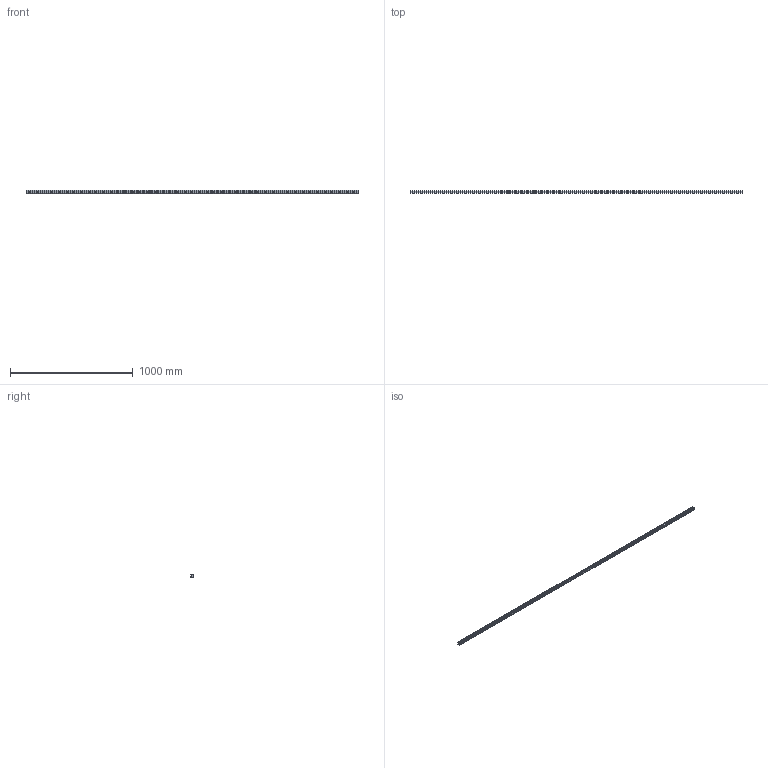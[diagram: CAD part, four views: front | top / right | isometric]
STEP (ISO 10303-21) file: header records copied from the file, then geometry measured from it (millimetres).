
FILE_DESCRIPTION (( 'STEP AP203' ), '1' );
FILE_NAME ('L1018.25R-2700.step', '2023-08-06T10:43:35', ( '' ), ( '' ), 'SwSTEP 2.0', 'SolidWorks 2019', '' );
FILE_SCHEMA (( 'CONFIG_CONTROL_DESIGN' ));
Length unit declared in the file: millimetre
Products named in the file (1): L1018.25R-2700
Bounding box: 2700 x 21.8 x 25 mm (x, y, z)
Volume: 1122897.9 mm3; surface area: 268955.1 mm2
Topology: 1 solids, 1 shells, 434 faces, 981 edges, 549 vertices
Faces by surface type: cylinder 183, cone 180, plane 71
Entity records: 11528 total; most frequent: DIRECTION 2217, CARTESIAN_POINT 1875, ORIENTED_EDGE 1782, AXIS2_PLACEMENT_3D 891, EDGE_CURVE 891, VERTEX_POINT 549, EDGE_LOOP 524, CIRCLE 456
